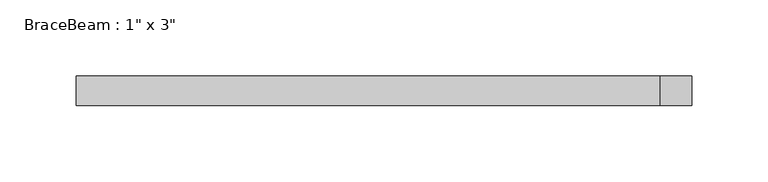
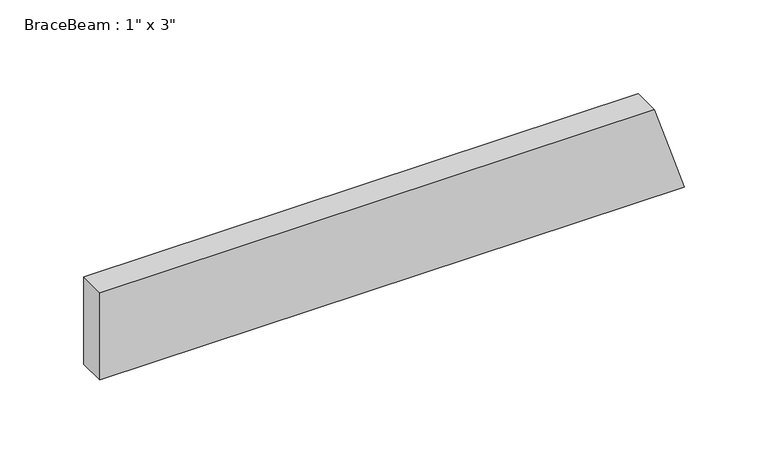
"""IFC4 building model written with IfcOpenShell, lengths in millimetres: beam geometry."""

import ifcopenshell
import ifcopenshell.guid

model = None  # the IFC model being written
_history = None  # IfcOwnerHistory: only IFC2X3 demands one
_inside = {}  # id of a spatial element -> (the spatial element, [elements in it])
_under = {}  # id of a project, library or spatial element -> (it, [spatial elements below it])
_declared = {}  # id of a project -> (the project, [libraries it declares])
_typed = {}  # id of a type object -> (the type object, [elements of that type])
_made_of = {}  # id of a material, layer set ... -> (it, [elements and type objects made of it])


def new_model(schema):
    """Start an empty IFC model of exactly this schema.

    Asked for "IFC4X3", IfcOpenShell would pick the latest addendum, in which some entities
    have other attributes; the version numbers below select the first issue.
    IFC2X3 requires an IfcOwnerHistory on every rooted entity: one is made here for all.
    """
    global model, _history
    if schema == "IFC4X3":
        model = ifcopenshell.file(schema_version=(4, 3, 0, 0))
    else:
        model = ifcopenshell.file(schema=schema)
    _inside.clear()
    _under.clear()
    _declared.clear()
    _typed.clear()
    _made_of.clear()
    _history = None
    if model.schema == "IFC2X3":
        org = make("IfcOrganization", Name="unknown")
        user = make(
            "IfcPersonAndOrganization",
            ThePerson=make("IfcPerson", FamilyName="unknown"),
            TheOrganization=org,
        )
        app = make(
            "IfcApplication",
            ApplicationDeveloper=org,
            Version="unknown",
            ApplicationFullName="unknown",
            ApplicationIdentifier="unknown",
        )
        _history = make(
            "IfcOwnerHistory",
            OwningUser=user,
            OwningApplication=app,
            ChangeAction="ADDED",
            CreationDate=0,
        )
    return model


def make(cls, **values):
    """One entity of the class cls with the attributes given. An attribute that is None is left unset."""
    return model.create_entity(
        cls, **{name: value for name, value in values.items() if value is not None}
    )


def rooted(cls, **values):
    """An entity with a GlobalId (a new one), such as an element, a storey or a relation."""
    return make(cls, GlobalId=ifcopenshell.guid.new(), OwnerHistory=_history, **values)


def si_unit(unit_type, name, prefix=None):
    """IfcSIUnit, for example si_unit("LENGTHUNIT", "METRE", prefix="MILLI")."""
    return make("IfcSIUnit", UnitType=unit_type, Prefix=prefix, Name=name)


def assignment(units):
    """IfcUnitAssignment: the units of a project."""
    return None if units is None else make("IfcUnitAssignment", Units=units)


def point(xyz):
    """IfcCartesianPoint."""
    return None if xyz is None else make("IfcCartesianPoint", Coordinates=xyz)


def direction(xyz):
    """IfcDirection."""
    return None if xyz is None else make("IfcDirection", DirectionRatios=xyz)


def frame(location, z_axis=None, x_axis=None):
    """IfcAxis2Placement3D, a coordinate frame: its origin and axes. An axis left out is left unset."""
    return make(
        "IfcAxis2Placement3D",
        Location=point(location),
        Axis=direction(z_axis),
        RefDirection=direction(x_axis),
    )


def origin():
    """The frame at (0, 0, 0) with its axes left unset."""
    return frame((0.0, 0.0, 0.0))


def place(relative_to, where):
    """IfcLocalPlacement: puts the frame where relative to a parent placement (None: the world)."""
    return make(
        "IfcLocalPlacement", PlacementRelTo=relative_to, RelativePlacement=where
    )


def context(
    kind, dimensions, precision=None, world=None, true_north=None, identifier=None
):
    """IfcGeometricRepresentationContext, for example the 3D "Model" context."""
    return make(
        "IfcGeometricRepresentationContext",
        ContextIdentifier=identifier,
        ContextType=kind,
        CoordinateSpaceDimension=dimensions,
        Precision=precision,
        WorldCoordinateSystem=world,
        TrueNorth=true_north,
    )


def project(units=None, contexts=None):
    """IfcProject with its units and contexts."""
    return rooted(
        "IfcProject",
        Name="project",
        RepresentationContexts=contexts,
        UnitsInContext=assignment(units),
    )


def spatial(cls, under=None, at=None, **own):
    """A site, building, storey or space (cls), placed at a placement, below another one or the project."""
    s = rooted(cls, ObjectPlacement=at, **own)
    if under is not None:
        _under.setdefault(under.id(), (under, []))[1].append(s)
    return s


def faces_of(points, faces, orient=None, outer=None):
    """IfcFace entities. A face is a list of loops; a loop is a list of indices into points, from 0.

    orient and outer hold one flag for each loop. By default every Orientation is true, the
    first loop of a face is its IfcFaceOuterBound and the others are IfcFaceBound.
    """
    made = []
    for i, loops in enumerate(faces):
        bounds = []
        for j, loop in enumerate(loops):
            is_outer = j == 0 if outer is None else outer[i][j]
            bounds.append(
                make(
                    "IfcFaceOuterBound" if is_outer else "IfcFaceBound",
                    Bound=make("IfcPolyLoop", Polygon=[points[k] for k in loop]),
                    Orientation=True if orient is None else orient[i][j],
                )
            )
        made.append(make("IfcFace", Bounds=bounds))
    return made


def faceted_brep(points, faces, orient=None, outer=None, voids=None):
    """IfcFacetedBrep: a solid bounded by flat faces; with voids (closed shells), ...WithVoids."""
    shared = [point(p) for p in points]
    hull = make("IfcClosedShell", CfsFaces=faces_of(shared, faces, orient, outer))
    if voids is None:
        return make("IfcFacetedBrep", Outer=hull)
    return make(
        "IfcFacetedBrepWithVoids",
        Outer=hull,
        Voids=[
            make(cls, CfsFaces=faces_of(shared, fs, o, b)) for cls, fs, o, b in voids
        ],
    )


def shape(context_of_items, identifier, shape_type, items):
    """IfcShapeRepresentation: the items that make up one representation, for example the "Body"."""
    return make(
        "IfcShapeRepresentation",
        ContextOfItems=context_of_items,
        RepresentationIdentifier=identifier,
        RepresentationType=shape_type,
        Items=items,
    )


def source(mapping_origin, context_of_items, identifier, shape_type, items):
    """IfcRepresentationMap: a shape defined once, which mapped items show again and again."""
    return make(
        "IfcRepresentationMap",
        MappingOrigin=mapping_origin,
        MappedRepresentation=shape(context_of_items, identifier, shape_type, items),
    )


def transform(
    local_origin,
    x_axis=None,
    y_axis=None,
    z_axis=None,
    scale=None,
    scale2=None,
    scale3=None,
    uniform=True,
):
    """IfcCartesianTransformationOperator3D, or its non-uniform kind. x_axis, y_axis, z_axis: its Axis1, 2, 3."""
    if uniform:
        return make(
            "IfcCartesianTransformationOperator3D",
            Axis1=direction(x_axis),
            Axis2=direction(y_axis),
            LocalOrigin=point(local_origin),
            Scale=scale,
            Axis3=direction(z_axis),
        )
    return make(
        "IfcCartesianTransformationOperator3DnonUniform",
        Axis1=direction(x_axis),
        Axis2=direction(y_axis),
        LocalOrigin=point(local_origin),
        Scale=scale,
        Axis3=direction(z_axis),
        Scale2=scale2,
        Scale3=scale3,
    )


def mapped(mapping_source, mapping_target):
    """IfcMappedItem: shows the shape of a source again, moved by a transform."""
    return make(
        "IfcMappedItem", MappingSource=mapping_source, MappingTarget=mapping_target
    )


def made_of(thing, what):
    """Note that an element or type object is made of a material, layer set ...; save() writes the relation."""
    if what is not None:
        _made_of.setdefault(what.id(), (what, []))[1].append(thing)
    return thing


def element(
    cls,
    number,
    at=None,
    inside=None,
    cuts=None,
    type_object=None,
    material=None,
    context=None,
    identifier="Body",
    shape_type=None,
    held_by="IfcProductDefinitionShape",
    body=None,
    shapes=None,
    **own,
):
    """One element of the class cls, such as IfcWall. Its Tag is "e" and its number.

    at: its placement. inside: the storey or other place that contains it. cuts: it is an
    opening in that element (IfcRelVoidsElement). A single representation is given by context,
    identifier, shape_type and body (its items); several are given by shapes. held_by: the class
    of the entity that holds the representations. save() writes the other relations.
    """
    e = rooted(cls, Tag="e%d" % number, ObjectPlacement=at, **own)
    if body is not None:
        shapes = [shape(context, identifier, shape_type, body)]
    if shapes is not None:
        e.Representation = make(held_by, Representations=shapes)
    if inside is not None:
        _inside.setdefault(inside.id(), (inside, []))[1].append(e)
    if cuts is not None:
        rooted(
            "IfcRelVoidsElement", RelatingBuildingElement=cuts, RelatedOpeningElement=e
        )
    if type_object is not None:
        _typed.setdefault(type_object.id(), (type_object, []))[1].append(e)
    return made_of(e, material)


def aggregate(whole, parts):
    """IfcRelAggregates: a whole, such as a stair, and the parts it consists of."""
    return rooted("IfcRelAggregates", RelatingObject=whole, RelatedObjects=parts)


def save(model, path):
    """Write the relations noted so far, then the file.

    IfcRelAggregates (storeys below a building ...), IfcRelContainedInSpatialStructure (elements
    in a storey), IfcRelDefinesByType, IfcRelAssociatesMaterial and IfcRelDeclares: one each for
    every whole, place, type object, material and project.
    """
    for whole, parts in _under.values():
        aggregate(whole, parts)
    for where, things in _inside.values():
        rooted(
            "IfcRelContainedInSpatialStructure",
            RelatedElements=things,
            RelatingStructure=where,
        )
    for kind, things in _typed.values():
        rooted("IfcRelDefinesByType", RelatedObjects=things, RelatingType=kind)
    for what, things in _made_of.values():
        rooted("IfcRelAssociatesMaterial", RelatedObjects=things, RelatingMaterial=what)
    for by, libraries in _declared.values():
        rooted("IfcRelDeclares", RelatingContext=by, RelatedDefinitions=libraries)
    model.write(path)


def beam_00115404(model_context):
    return source(origin(), model_context, "Body", "Brep", [
        faceted_brep([(-196.7340275, 9.525, -31.75), (205.448505, 9.525, -31.75), (205.448505, -9.525, -31.75), (-196.7340275, -9.525, -31.75), (195.0856578, -9.525, 0.0), (184.7228105, -9.525, 31.75), (-196.7340275, -9.525, 31.75), (184.7228105, 9.525, 31.75), (-196.7340275, 9.525, 31.75), (195.0856578, 9.525, 0.0)], [[[0, 1, 2, 3]], [[3, 2, 4, 5, 6]], [[6, 5, 7, 8]], [[8, 7, 9, 1, 0]], [[8, 0, 3, 6]], [[5, 4, 2, 1, 9, 7]]]),
    ])


if __name__ == "__main__":
    model = new_model("IFC4")
    model_context = context("Model", 3, world=origin())
    ifc_project = project(units=[si_unit("LENGTHUNIT", "METRE", prefix="MILLI")], contexts=[model_context])
    site = spatial("IfcSite", under=ifc_project)
    building = spatial("IfcBuilding", under=site)
    placement = place(None, origin())
    beam_shape = beam_00115404(model_context)
    element("IfcBeam", 1, ObjectType="BraceBeam : 1\" x 3\"", at=placement, inside=building, context=model_context, shape_type="MappedRepresentation", body=[
        mapped(beam_shape, transform((0.0, 0.0, 0.0), x_axis=(1.0, 0.0, 0.0), y_axis=(0.0, 1.0, 0.0), z_axis=(0.0, 0.0, 1.0))),
    ])
    save(model, "model.ifc")
